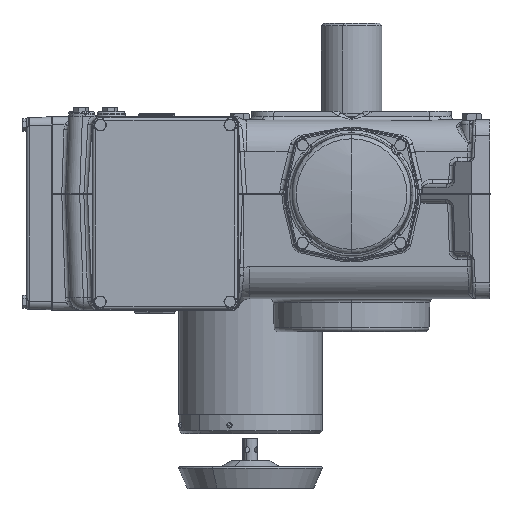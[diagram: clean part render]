
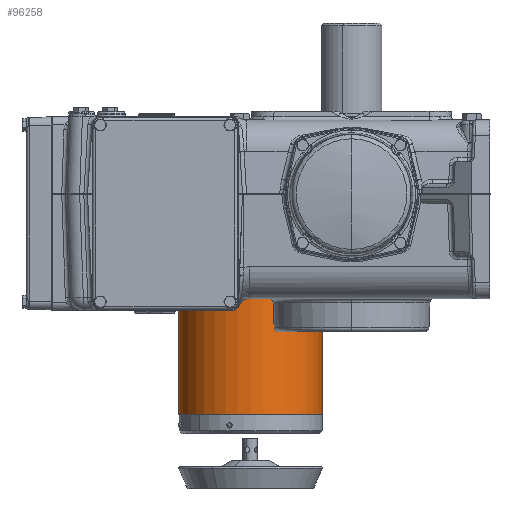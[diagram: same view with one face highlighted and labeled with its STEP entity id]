
A CAD part, left-side view. The second image highlights one B-rep face of the part: STEP entity #96258.
In plain terms, the highlighted cylindrical face has radius 82.55 mm (diameter 165.1 mm), a partial arc.
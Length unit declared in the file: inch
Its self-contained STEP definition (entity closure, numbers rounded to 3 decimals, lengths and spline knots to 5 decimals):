
#5016 = VERTEX_POINT ( 'NONE', #48714 ) ;
#7863 = CARTESIAN_POINT ( 'NONE',  ( 10.878, 4.572, -3.294 ) ) ;
#8291 = DIRECTION ( 'NONE',  ( 0., 0., -1. ) ) ;
#14065 = CARTESIAN_POINT ( 'NONE',  ( 10.878, 7.822, -10.07525 ) ) ;
#16571 = EDGE_CURVE ( 'NONE', #72345, #100624, #42992, .T. ) ;
#24522 = ORIENTED_EDGE ( 'NONE', *, *, #87917, .F. ) ;
#28118 = AXIS2_PLACEMENT_3D ( 'NONE', #7863, #63603, #39955 ) ;
#28440 = VECTOR ( 'NONE', #8291, 39.37008 ) ;
#30688 = DIRECTION ( 'NONE',  ( 0., 0., -1. ) ) ;
#35910 = CARTESIAN_POINT ( 'NONE',  ( 10.878, 4.572, -10.044 ) ) ;
#38484 = DIRECTION ( 'NONE',  ( 0., 0., -1. ) ) ;
#39955 = DIRECTION ( 'NONE',  ( 0., -1., 0. ) ) ;
#40310 = EDGE_CURVE ( 'NONE', #72345, #79341, #96384, .T. ) ;
#40991 = AXIS2_PLACEMENT_3D ( 'NONE', #59628, #30688, #70384 ) ;
#42992 = CIRCLE ( 'NONE', #28118, 3.25 ) ;
#43951 = DIRECTION ( 'NONE',  ( 0., 1., 0. ) ) ;
#44919 = EDGE_LOOP ( 'NONE', ( #73709, #93689, #103171, #24522 ) ) ;
#48102 = CARTESIAN_POINT ( 'NONE',  ( 10.878, 1.322, -10.07525 ) ) ;
#48714 = CARTESIAN_POINT ( 'NONE',  ( 10.878, 1.322, -10.044 ) ) ;
#49203 = CARTESIAN_POINT ( 'NONE',  ( 10.878, 1.322, -3.294 ) ) ;
#49650 = LINE ( 'NONE', #48102, #28440 ) ;
#49851 = CYLINDRICAL_SURFACE ( 'NONE', #40991, 3.25 ) ;
#51502 = VECTOR ( 'NONE', #38484, 39.37008 ) ;
#59628 = CARTESIAN_POINT ( 'NONE',  ( 10.878, 4.572, -10.07525 ) ) ;
#62955 = AXIS2_PLACEMENT_3D ( 'NONE', #35910, #91679, #43951 ) ;
#63603 = DIRECTION ( 'NONE',  ( 0., 0., 1. ) ) ;
#70384 = DIRECTION ( 'NONE',  ( 0., -1., 0. ) ) ;
#72345 = VERTEX_POINT ( 'NONE', #91201 ) ;
#73485 = FACE_OUTER_BOUND ( 'NONE', #44919, .T. ) ;
#73709 = ORIENTED_EDGE ( 'NONE', *, *, #16571, .F. ) ;
#76478 = EDGE_CURVE ( 'NONE', #5016, #79341, #93026, .T. ) ;
#79341 = VERTEX_POINT ( 'NONE', #90984 ) ;
#87917 = EDGE_CURVE ( 'NONE', #100624, #5016, #49650, .T. ) ;
#90984 = CARTESIAN_POINT ( 'NONE',  ( 10.878, 7.822, -10.044 ) ) ;
#91201 = CARTESIAN_POINT ( 'NONE',  ( 10.878, 7.822, -3.294 ) ) ;
#91679 = DIRECTION ( 'NONE',  ( 0., 0., -1. ) ) ;
#93026 = CIRCLE ( 'NONE', #62955, 3.25 ) ;
#93689 = ORIENTED_EDGE ( 'NONE', *, *, #40310, .T. ) ;
#96258 = ADVANCED_FACE ( 'NONE', ( #73485 ), #49851, .T. ) ;
#96384 = LINE ( 'NONE', #14065, #51502 ) ;
#100624 = VERTEX_POINT ( 'NONE', #49203 ) ;
#103171 = ORIENTED_EDGE ( 'NONE', *, *, #76478, .F. ) ;
